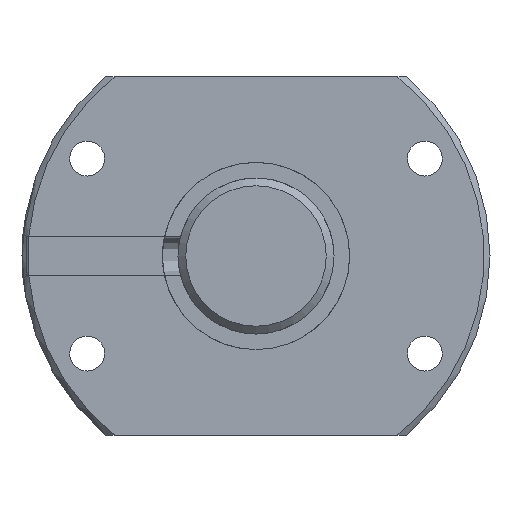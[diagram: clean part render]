
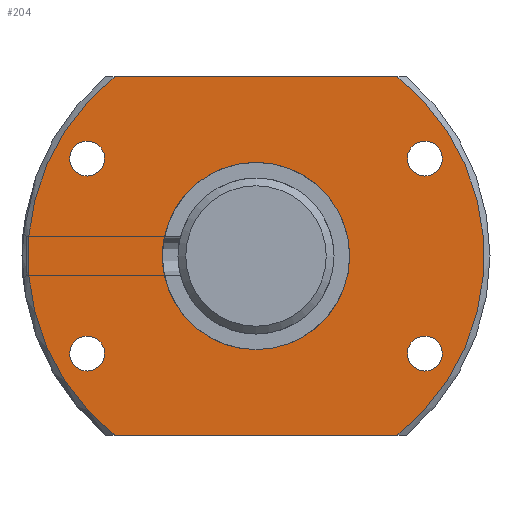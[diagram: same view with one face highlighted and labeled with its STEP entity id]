
A CAD part, left-side view. The second image highlights one B-rep face of the part: STEP entity #204.
In plain terms, the highlighted planar face has unit normal (-1, 0, 0).
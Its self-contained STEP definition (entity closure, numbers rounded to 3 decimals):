
#204 = ADVANCED_FACE( '', ( #311, #312, #313, #314, #315, #316 ), #317, .T. );
#311 = FACE_BOUND( '', #427, .T. );
#312 = FACE_OUTER_BOUND( '', #428, .T. );
#313 = FACE_BOUND( '', #429, .T. );
#314 = FACE_BOUND( '', #430, .T. );
#315 = FACE_BOUND( '', #431, .T. );
#316 = FACE_BOUND( '', #432, .T. );
#317 = PLANE( '', #433 );
#427 = EDGE_LOOP( '', ( #642 ) );
#428 = EDGE_LOOP( '', ( #643, #644, #645, #646 ) );
#429 = EDGE_LOOP( '', ( #647 ) );
#430 = EDGE_LOOP( '', ( #648 ) );
#431 = EDGE_LOOP( '', ( #649 ) );
#432 = EDGE_LOOP( '', ( #650 ) );
#433 = AXIS2_PLACEMENT_3D( '', #651, #652, #653 );
#642 = ORIENTED_EDGE( '', *, *, #718, .T. );
#643 = ORIENTED_EDGE( '', *, *, #738, .F. );
#644 = ORIENTED_EDGE( '', *, *, #703, .F. );
#645 = ORIENTED_EDGE( '', *, *, #709, .F. );
#646 = ORIENTED_EDGE( '', *, *, #739, .F. );
#647 = ORIENTED_EDGE( '', *, *, #695, .T. );
#648 = ORIENTED_EDGE( '', *, *, #697, .T. );
#649 = ORIENTED_EDGE( '', *, *, #699, .T. );
#650 = ORIENTED_EDGE( '', *, *, #701, .T. );
#651 = CARTESIAN_POINT( '', ( 0., 29.25, 0. ) );
#652 = DIRECTION( '', ( -1., 0., 0. ) );
#653 = DIRECTION( '', ( 0., 0., 1. ) );
#695 = EDGE_CURVE( '', #771, #771, #772, .T. );
#697 = EDGE_CURVE( '', #775, #775, #776, .T. );
#699 = EDGE_CURVE( '', #779, #779, #780, .T. );
#701 = EDGE_CURVE( '', #783, #783, #784, .T. );
#703 = EDGE_CURVE( '', #785, #788, #789, .T. );
#709 = EDGE_CURVE( '', #798, #785, #800, .T. );
#718 = EDGE_CURVE( '', #815, #815, #816, .T. );
#738 = EDGE_CURVE( '', #788, #849, #850, .T. );
#739 = EDGE_CURVE( '', #849, #798, #851, .T. );
#771 = VERTEX_POINT( '', #942 );
#772 = CIRCLE( '', #943, 2.25 );
#775 = VERTEX_POINT( '', #946 );
#776 = CIRCLE( '', #947, 2.25 );
#779 = VERTEX_POINT( '', #950 );
#780 = CIRCLE( '', #951, 2.25 );
#783 = VERTEX_POINT( '', #954 );
#784 = CIRCLE( '', #955, 2.25 );
#785 = VERTEX_POINT( '', #956 );
#788 = VERTEX_POINT( '', #962 );
#789 = CIRCLE( '', #963, 29.25 );
#798 = VERTEX_POINT( '', #979 );
#800 = LINE( '', #984, #985 );
#815 = VERTEX_POINT( '', #1039 );
#816 = CIRCLE( '', #1040, 12. );
#849 = VERTEX_POINT( '', #1110 );
#850 = LINE( '', #1111, #1112 );
#851 = CIRCLE( '', #1113, 29.25 );
#942 = CARTESIAN_POINT( '', ( 0., 21.651, -14.75 ) );
#943 = AXIS2_PLACEMENT_3D( '', #1160, #1161, #1162 );
#946 = CARTESIAN_POINT( '', ( 0., -21.651, -14.75 ) );
#947 = AXIS2_PLACEMENT_3D( '', #1166, #1167, #1168 );
#950 = CARTESIAN_POINT( '', ( 0., -21.651, 10.25 ) );
#951 = AXIS2_PLACEMENT_3D( '', #1172, #1173, #1174 );
#954 = CARTESIAN_POINT( '', ( 0., 21.651, 10.25 ) );
#955 = AXIS2_PLACEMENT_3D( '', #1178, #1179, #1180 );
#956 = CARTESIAN_POINT( '', ( 0., 18.071, -23. ) );
#962 = CARTESIAN_POINT( '', ( 0., 18.071, 23. ) );
#963 = AXIS2_PLACEMENT_3D( '', #1181, #1182, #1183 );
#979 = CARTESIAN_POINT( '', ( 0., -18.071, -23. ) );
#984 = CARTESIAN_POINT( '', ( 0., -30.1, -23. ) );
#985 = VECTOR( '', #1188, 1000. );
#1039 = CARTESIAN_POINT( '', ( 0., 0., -12. ) );
#1040 = AXIS2_PLACEMENT_3D( '', #1200, #1201, #1202 );
#1110 = CARTESIAN_POINT( '', ( 0., -18.071, 23. ) );
#1111 = CARTESIAN_POINT( '', ( 0., 30.1, 23. ) );
#1112 = VECTOR( '', #1244, 1000. );
#1113 = AXIS2_PLACEMENT_3D( '', #1245, #1246, #1247 );
#1160 = CARTESIAN_POINT( '', ( 0., 21.651, -12.5 ) );
#1161 = DIRECTION( '', ( 1., 0., 0. ) );
#1162 = DIRECTION( '', ( 0., 0., -1. ) );
#1166 = CARTESIAN_POINT( '', ( 0., -21.651, -12.5 ) );
#1167 = DIRECTION( '', ( 1., 0., 0. ) );
#1168 = DIRECTION( '', ( 0., 0., -1. ) );
#1172 = CARTESIAN_POINT( '', ( 0., -21.651, 12.5 ) );
#1173 = DIRECTION( '', ( 1., 0., 0. ) );
#1174 = DIRECTION( '', ( 0., 0., -1. ) );
#1178 = CARTESIAN_POINT( '', ( 0., 21.651, 12.5 ) );
#1179 = DIRECTION( '', ( 1., 0., 0. ) );
#1180 = DIRECTION( '', ( 0., 0., -1. ) );
#1181 = CARTESIAN_POINT( '', ( 0., 0., 0. ) );
#1182 = DIRECTION( '', ( 1., 0., 0. ) );
#1183 = DIRECTION( '', ( 0., 0., -1. ) );
#1188 = DIRECTION( '', ( 0., 1., 0. ) );
#1200 = CARTESIAN_POINT( '', ( 0., 0., 0. ) );
#1201 = DIRECTION( '', ( 1., 0., 0. ) );
#1202 = DIRECTION( '', ( 0., 0., -1. ) );
#1244 = DIRECTION( '', ( 0., -1., 0. ) );
#1245 = CARTESIAN_POINT( '', ( 0., 0., 0. ) );
#1246 = DIRECTION( '', ( 1., 0., 0. ) );
#1247 = DIRECTION( '', ( 0., 0., -1. ) );
